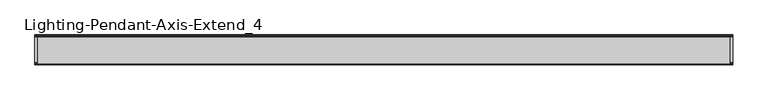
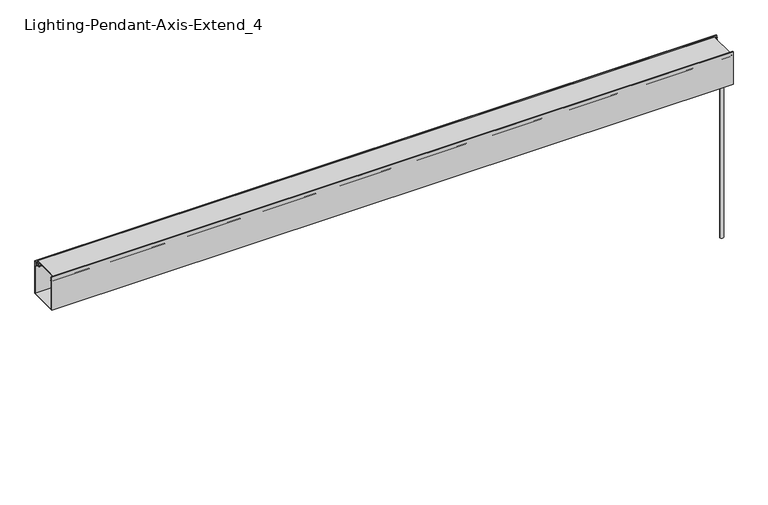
"""IFC4 building model written with IfcOpenShell, lengths in millimetres: light fixture geometry, Lighting-Pendant-Axis-Extend_4 : EX4PD-900-80-35-SO-4."""

from ifc_helpers import new_model, si_unit, point, frame, frame_2d, origin, place, context, project, spatial, polyline, circle_curve, trimmed, segment, composite_curve, outline, extrude, source, transform, mapped, element, save
from ifc_brep_helpers import plane_surface, cylinder_surface, advanced_brep


def lighting_pendant_axis_extend_4_c51e4468(model_context):
    return source(origin(), model_context, "Body", "SolidModel", [
        advanced_brep(
        [(1223.772, 0.0, 609.6), (1211.072, 0.0, 609.6), (1217.422, 0.0, 609.6), (1223.772, 0.0, 0.0), (1211.072, 0.0, 0.0), (1217.422, 0.0, 0.0)],
        [
            (0, 1, circle_curve(frame((1217.422, 0.0, 609.6), z_axis=(0.0, 0.0, 1.0), x_axis=(-1.0, 0.0, 0.0)), 6.35)),
            (1, 2),
            (2, 0),
            (1, 0, circle_curve(frame((1217.422, 0.0, 609.6), z_axis=(0.0, 0.0, 1.0), x_axis=(-1.0, 0.0, 0.0)), 6.35)),
            (3, 4, circle_curve(frame((1217.422, 0.0, 0.0), z_axis=(0.0, 0.0, 1.0), x_axis=(-1.0, 0.0, 0.0)), 6.35)),
            (4, 1),
            (0, 3),
            (4, 3, circle_curve(frame((1217.422, 0.0, 0.0), z_axis=(0.0, 0.0, 1.0), x_axis=(-1.0, 0.0, 0.0)), 6.35)),
            (5, 4),
            (3, 5),
        ],
        [
            plane_surface(frame((1217.422, 0.0, 609.6), z_axis=(0.0, 0.0, 1.0), x_axis=(-1.0, 0.0, 0.0))),
            cylinder_surface(frame((1217.422, 0.0, 2913.8581012), z_axis=(0.0, 0.0, -1.0), x_axis=(-1.0, 0.0, 0.0)), 6.35),
            plane_surface(frame((1217.422, 0.0, 0.0), z_axis=(0.0, 0.0, -1.0), x_axis=(-1.0, 0.0, 0.0))),
        ],
        [
            (0, [[1, 2, 3]]),
            (0, [[4, -3, -2]]),
            (1, [[5, 6, -1, 7]]),
            (1, [[8, -7, -4, -6]]),
            (2, [[9, -5, 10]]),
            (2, [[-10, -8, -9]]),
        ],
    ),
        extrude(outline(composite_curve([segment(polyline([(-44.9537362, 729.4879991), (-45.2924281, 723.0253737)]), True, "CONTINUOUS"), segment(trimmed(circle_curve(frame_2d((-48.03521, 720.0265)), 4.064), [point((-45.2924281, 723.0253737))], [point((-46.1628914, 716.4194903))], False, "CARTESIAN"), True, "CONTINUOUS"), segment(trimmed(circle_curve(frame_2d((-42.930354, 717.2083457)), 3.3274001), [point((-46.1628914, 716.4194903))], [point((-45.3476056, 714.9217575))], True, "CARTESIAN"), True, "CONTINUOUS"), segment(trimmed(circle_curve(frame_2d((-37.9113277, 721.9560708)), 10.2362001), [point((-45.3476056, 714.9217575))], [point((-43.9929166, 713.7223555))], True, "CARTESIAN"), True, "CONTINUOUS"), segment(trimmed(circle_curve(frame_2d((-44.4833673, 713.0583462)), 0.8255), [point((-43.9929166, 713.7223555))], [point((-44.973818, 712.3943369))], False, "CARTESIAN"), True, "CONTINUOUS"), segment(trimmed(circle_curve(frame_2d((-37.9113269, 721.9560717)), 11.8872013), [point((-44.973818, 712.3943369))], [point((-46.5470052, 713.7871908))], False, "CARTESIAN"), True, "CONTINUOUS"), segment(trimmed(circle_curve(frame_2d((-42.930354, 717.2083457)), 4.9784001), [point((-46.5470052, 713.7871908))], [point((-47.8918907, 717.61776))], False, "CARTESIAN"), True, "CONTINUOUS"), segment(trimmed(circle_curve(frame_2d((-48.03521, 720.0265)), 2.413), [point((-47.8918907, 717.61776))], [point((-46.2564041, 721.6569658))], True, "CARTESIAN"), True, "CONTINUOUS"), segment(trimmed(circle_curve(frame_2d((-44.3839769, 723.3732456)), 2.54), [point((-46.2564041, 721.6569658))], [point((-46.9204959, 723.5061789))], False, "CARTESIAN"), True, "CONTINUOUS"), segment(polyline([(-46.9204959, 723.5061789), (-46.607002, 729.4879991), (-49.61001, 729.4879991), (-49.61001, 731.393), (49.61001, 731.393), (49.61001, 729.4879991), (46.607002, 729.4879991), (46.9204959, 723.5061789)]), True, "CONTINUOUS"), segment(trimmed(circle_curve(frame_2d((44.3839769, 723.3732456)), 2.54), [point((46.9204959, 723.5061789))], [point((46.2564041, 721.6569658))], False, "CARTESIAN"), True, "CONTINUOUS"), segment(trimmed(circle_curve(frame_2d((48.03521, 720.0265)), 2.413), [point((46.2564041, 721.6569658))], [point((47.8918907, 717.61776))], True, "CARTESIAN"), True, "CONTINUOUS"), segment(trimmed(circle_curve(frame_2d((42.930354, 717.2083457)), 4.9784001), [point((47.8918907, 717.61776))], [point((46.5470052, 713.7871908))], False, "CARTESIAN"), True, "CONTINUOUS"), segment(trimmed(circle_curve(frame_2d((37.9113269, 721.9560717)), 11.8872013), [point((46.5470052, 713.7871908))], [point((44.973818, 712.3943369))], False, "CARTESIAN"), True, "CONTINUOUS"), segment(trimmed(circle_curve(frame_2d((44.4833673, 713.0583462)), 0.8255), [point((44.973818, 712.3943369))], [point((43.9929166, 713.7223555))], False, "CARTESIAN"), True, "CONTINUOUS"), segment(trimmed(circle_curve(frame_2d((37.9113277, 721.9560708)), 10.2362001), [point((43.9929166, 713.7223555))], [point((45.3476056, 714.9217575))], True, "CARTESIAN"), True, "CONTINUOUS"), segment(trimmed(circle_curve(frame_2d((42.930354, 717.2083457)), 3.3274001), [point((45.3476056, 714.9217575))], [point((46.1628914, 716.4194903))], True, "CARTESIAN"), True, "CONTINUOUS"), segment(trimmed(circle_curve(frame_2d((48.03521, 720.0265)), 4.064), [point((46.1628914, 716.4194903))], [point((45.2924281, 723.0253737))], False, "CARTESIAN"), True, "CONTINUOUS"), segment(polyline([(45.2924281, 723.0253737), (44.9537362, 729.4879991), (-44.9537362, 729.4879991)]), True, "CONTINUOUS")], self_intersect=False)), frame((-1219.2, 0.0, 0.0), z_axis=(1.0, 0.0, 0.0), x_axis=(0.0, 1.0, 0.0)), (0.0, 0.0, 1.0), 2438.4),
        extrude(outline(composite_curve([segment(polyline([(-50.75301, 719.4677), (-50.75301, 611.632), (50.75301, 611.632), (50.75301, 719.4677), (48.9135897, 719.4677)]), True, "CONTINUOUS"), segment(trimmed(circle_curve(frame_2d((47.4072397, 719.4677)), 1.5063501), [point((48.9135897, 719.4677))], [point((46.6540646, 718.1631626))], False, "CARTESIAN"), True, "CONTINUOUS"), segment(trimmed(circle_curve(frame_2d((47.8452221, 720.2263079)), 2.382315), [point((46.6540646, 718.1631626))], [point((45.4706616, 720.4183682))], False, "CARTESIAN"), True, "CONTINUOUS"), segment(polyline([(45.4706616, 720.4183682), (48.84801, 723.2523), (48.84801, 721.4997), (50.75301, 721.4997), (50.75301, 728.0275), (48.84801, 728.0275), (48.84801, 726.5035), (47.19701, 726.5900252), (47.19701, 729.2975), (50.75301, 729.2975), (50.75301, 734.3775), (52.78501, 734.3775), (52.78501, 609.6), (-52.78501, 609.6), (-52.78501, 734.3775), (-50.75301, 734.3775), (-50.75301, 729.2975), (-47.19701, 729.2975), (-47.19701, 726.5900252), (-48.84801, 726.5035), (-48.84801, 728.0275), (-50.75301, 728.0275), (-50.75301, 721.4997), (-48.84801, 721.4997), (-48.84801, 723.2523), (-45.4706616, 720.4183682)]), True, "CONTINUOUS"), segment(trimmed(circle_curve(frame_2d((-47.8452221, 720.2263079)), 2.382315), [point((-45.4706616, 720.4183682))], [point((-46.6540646, 718.1631626))], False, "CARTESIAN"), True, "CONTINUOUS"), segment(trimmed(circle_curve(frame_2d((-47.4072397, 719.4677)), 1.5063501), [point((-46.6540646, 718.1631626))], [point((-48.9135897, 719.4677))], False, "CARTESIAN"), True, "CONTINUOUS"), segment(polyline([(-48.9135897, 719.4677), (-50.75301, 719.4677)]), True, "CONTINUOUS")], self_intersect=False)), frame((-1228.3567, 0.0, 0.0), z_axis=(1.0, 0.0, 0.0), x_axis=(0.0, 1.0, 0.0)), (0.0, 0.0, 1.0), 2456.7134),
    ])


if __name__ == "__main__":
    model = new_model("IFC4")
    model_context = context("Model", 3, world=origin())
    ifc_project = project(units=[si_unit("LENGTHUNIT", "METRE", prefix="MILLI")], contexts=[model_context])
    site = spatial("IfcSite", under=ifc_project)
    building = spatial("IfcBuilding", under=site)
    placement = place(None, origin())
    lighting_pendant_axis_extend_4_shape = lighting_pendant_axis_extend_4_c51e4468(model_context)
    element("IfcLightFixture", 1, ObjectType="Lighting-Pendant-Axis-Extend_4 : EX4PD-900-80-35-SO-4", at=placement, inside=building, context=model_context, shape_type="MappedRepresentation", body=[
        mapped(lighting_pendant_axis_extend_4_shape, transform((0.0, 0.0, 0.0), x_axis=(1.0, 0.0, 0.0), y_axis=(0.0, 1.0, 0.0), z_axis=(0.0, 0.0, 1.0))),
    ])
    save(model, "model.ifc")
